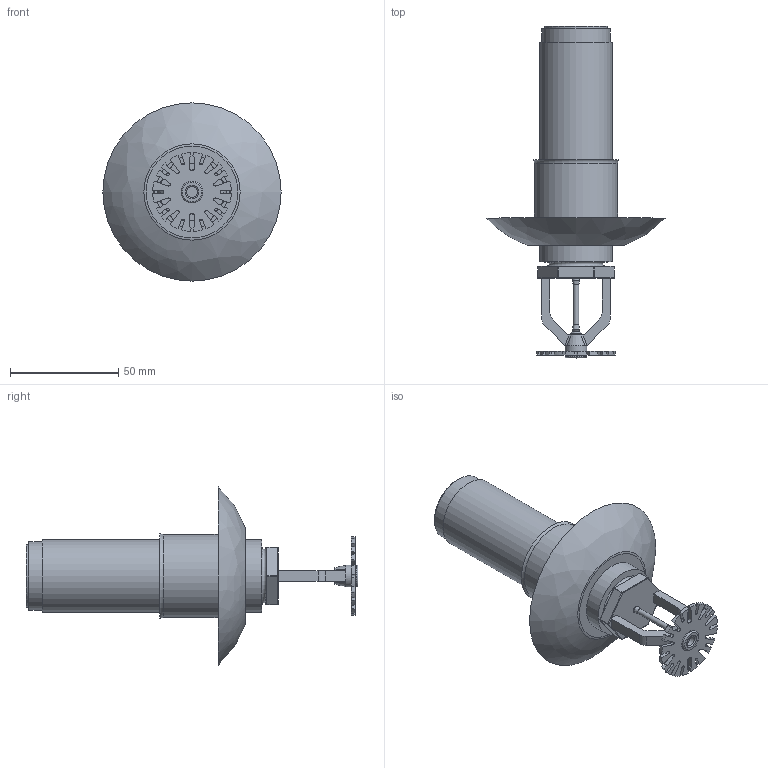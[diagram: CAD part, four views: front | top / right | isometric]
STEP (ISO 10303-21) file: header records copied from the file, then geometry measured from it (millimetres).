
FILE_DESCRIPTION(/* description */ ('VIC SPRINKLER V3614 K5.6 DRY PENDENT QUICK RESPONSE (BSPT)'),/* implementation_level */ '2;1');
FILE_NAME(/* name */ 'C:\Users\Public\Documents\Victaulic.Temp\A29\Victaulic_FP-Sprinkler_V3614_DRY_QR_Pendent (BSPT)_SLV_SKT_1 (25).stp',/* time_stamp */ '2024-09-24T08:12:44+02:00',/* author */ ('kkamble'),/* organization */ ('Victaulic'),/* preprocessor_version */ 'ST-DEVELOPER v18',/* originating_system */ 'Autodesk Inventor 2020',/* authorisation */ '');
FILE_SCHEMA (('AUTOMOTIVE_DESIGN { 1 0 10303 214 3 1 1 }'));
Length unit declared in the file: inch
Products named in the file (2): V3614_Sleeve & Skirt-01.0; V3614-01
Assembly tree (1 placements, depth 2):
  V3614_Sleeve & Skirt-01.0
    V3614-01
Bounding box: 82.55 x 153.67 x 82.55 mm (x, y, z)
Volume: 86258.9 mm3; surface area: 36352.1 mm2
Topology: 1 solids, 1 shells, 233 faces, 631 edges, 406 vertices
Faces by surface type: plane 109, cylinder 88, sphere 12, torus 9, bspline 9, cone 6
Full cylindrical faces by diameter (mm): 2.54 x1, 5.08 x2, 10.16 x2, 20.93 x1, 26.645 x1, 29.185 x1, 31.725 x1, 33.401 x2, 38.481 x1
Entity records: 7929 total; most frequent: CARTESIAN_POINT 1613, DIRECTION 1300, ORIENTED_EDGE 1252, EDGE_CURVE 626, AXIS2_PLACEMENT_3D 478, VERTEX_POINT 406, LINE 344, VECTOR 344
